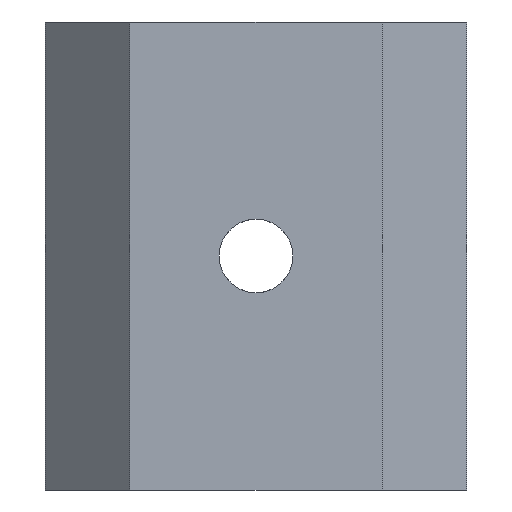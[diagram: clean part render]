
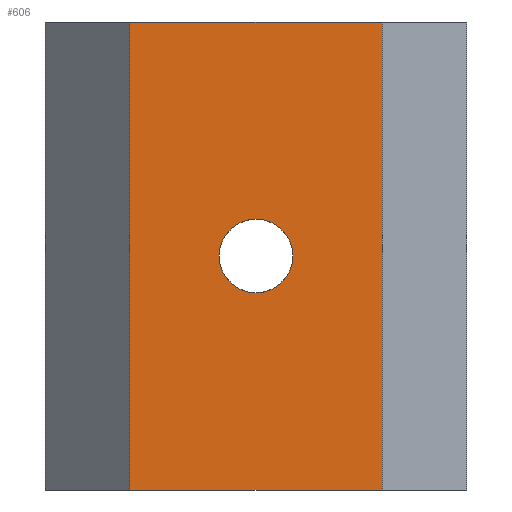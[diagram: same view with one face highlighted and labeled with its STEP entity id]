
A CAD part, front view. The second image highlights one B-rep face of the part: STEP entity #606.
In plain terms, the highlighted planar face has unit normal (0, -1, 0).
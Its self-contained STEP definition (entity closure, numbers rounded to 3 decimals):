
#6 = DIRECTION ( 'NONE',  ( 1., 0., 0. ) ) ;
#14 = VECTOR ( 'NONE', #117, 1000. ) ;
#15 = ORIENTED_EDGE ( 'NONE', *, *, #36, .F. ) ;
#36 = EDGE_CURVE ( 'NONE', #532, #376, #292, .T. ) ;
#39 = DIRECTION ( 'NONE',  ( 0., 1., 0. ) ) ;
#41 = CARTESIAN_POINT ( 'NONE',  ( 2.161, -7., -10. ) ) ;
#74 = CARTESIAN_POINT ( 'NONE',  ( -3.239, -7., 0. ) ) ;
#79 = DIRECTION ( 'NONE',  ( 0., 0., 1. ) ) ;
#86 = DIRECTION ( 'NONE',  ( 0., 0., 1. ) ) ;
#90 = VERTEX_POINT ( 'NONE', #316 ) ;
#117 = DIRECTION ( 'NONE',  ( 1., 0., 0. ) ) ;
#119 = FACE_BOUND ( 'NONE', #573, .T. ) ;
#120 = DIRECTION ( 'NONE',  ( 0., 0., 1. ) ) ;
#132 = CARTESIAN_POINT ( 'NONE',  ( 2.161, -7., -20. ) ) ;
#134 = ORIENTED_EDGE ( 'NONE', *, *, #549, .T. ) ;
#138 = AXIS2_PLACEMENT_3D ( 'NONE', #41, #392, #86 ) ;
#142 = EDGE_CURVE ( 'NONE', #532, #534, #155, .T. ) ;
#144 = CARTESIAN_POINT ( 'NONE',  ( 7.561, -7., -20. ) ) ;
#149 = ORIENTED_EDGE ( 'NONE', *, *, #494, .T. ) ;
#155 = LINE ( 'NONE', #132, #14 ) ;
#166 = VECTOR ( 'NONE', #79, 1000. ) ;
#171 = PLANE ( 'NONE',  #371 ) ;
#243 = VERTEX_POINT ( 'NONE', #421 ) ;
#246 = ORIENTED_EDGE ( 'NONE', *, *, #596, .F. ) ;
#260 = CARTESIAN_POINT ( 'NONE',  ( 2.161, -7., 0. ) ) ;
#265 = CARTESIAN_POINT ( 'NONE',  ( 7.561, -7., 0. ) ) ;
#279 = CIRCLE ( 'NONE', #384, 1.575 ) ;
#282 = EDGE_CURVE ( 'NONE', #534, #617, #554, .T. ) ;
#283 = CARTESIAN_POINT ( 'NONE',  ( 2.161, -7., -20. ) ) ;
#290 = ORIENTED_EDGE ( 'NONE', *, *, #282, .T. ) ;
#292 = LINE ( 'NONE', #310, #166 ) ;
#310 = CARTESIAN_POINT ( 'NONE',  ( -3.239, -7., -20. ) ) ;
#316 = CARTESIAN_POINT ( 'NONE',  ( 2.161, -7., -8.425 ) ) ;
#333 = DIRECTION ( 'NONE',  ( 0., 0., -1. ) ) ;
#339 = CARTESIAN_POINT ( 'NONE',  ( 2.161, -7., -10. ) ) ;
#366 = FACE_OUTER_BOUND ( 'NONE', #551, .T. ) ;
#371 = AXIS2_PLACEMENT_3D ( 'NONE', #283, #644, #333 ) ;
#376 = VERTEX_POINT ( 'NONE', #74 ) ;
#384 = AXIS2_PLACEMENT_3D ( 'NONE', #339, #39, #391 ) ;
#391 = DIRECTION ( 'NONE',  ( 0., 0., 1. ) ) ;
#392 = DIRECTION ( 'NONE',  ( 0., 1., 0. ) ) ;
#412 = CARTESIAN_POINT ( 'NONE',  ( -3.239, -7., -20. ) ) ;
#417 = VECTOR ( 'NONE', #120, 1000. ) ;
#421 = CARTESIAN_POINT ( 'NONE',  ( 2.161, -7., -11.575 ) ) ;
#472 = CARTESIAN_POINT ( 'NONE',  ( 7.561, -7., -20. ) ) ;
#494 = EDGE_CURVE ( 'NONE', #90, #243, #279, .T. ) ;
#520 = ORIENTED_EDGE ( 'NONE', *, *, #142, .T. ) ;
#526 = VECTOR ( 'NONE', #6, 1000. ) ;
#532 = VERTEX_POINT ( 'NONE', #412 ) ;
#534 = VERTEX_POINT ( 'NONE', #144 ) ;
#549 = EDGE_CURVE ( 'NONE', #243, #90, #610, .T. ) ;
#551 = EDGE_LOOP ( 'NONE', ( #246, #15, #520, #290 ) ) ;
#554 = LINE ( 'NONE', #472, #417 ) ;
#573 = EDGE_LOOP ( 'NONE', ( #149, #134 ) ) ;
#596 = EDGE_CURVE ( 'NONE', #376, #617, #654, .T. ) ;
#606 = ADVANCED_FACE ( 'NONE', ( #119, #366 ), #171, .T. ) ;
#610 = CIRCLE ( 'NONE', #138, 1.575 ) ;
#617 = VERTEX_POINT ( 'NONE', #265 ) ;
#644 = DIRECTION ( 'NONE',  ( 0., -1., 0. ) ) ;
#654 = LINE ( 'NONE', #260, #526 ) ;
